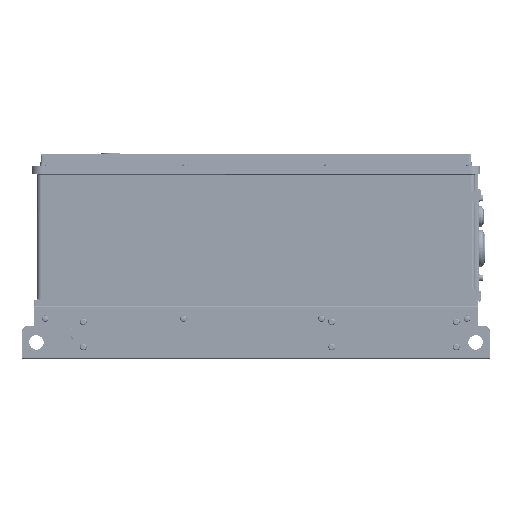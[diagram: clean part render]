
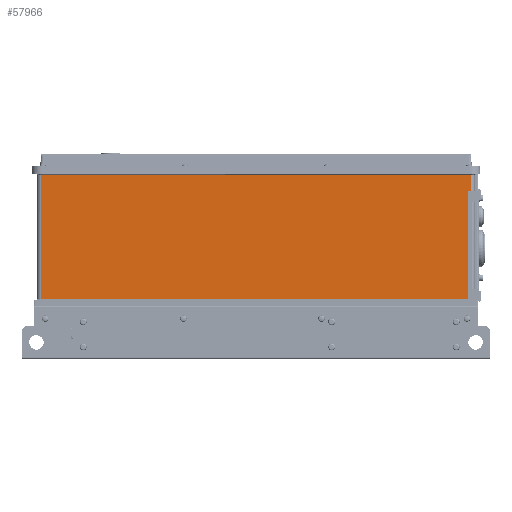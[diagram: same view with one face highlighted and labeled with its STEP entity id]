
A CAD part, left-side view. The second image highlights one B-rep face of the part: STEP entity #57966.
In plain terms, the highlighted planar face has unit normal (-1, 0, 0).
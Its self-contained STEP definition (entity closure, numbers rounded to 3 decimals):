
#4354=DIRECTION('',(0.,-1.,0.));
#4355=VECTOR('',#4354,596.008);
#4356=CARTESIAN_POINT('',(4.,606.004,255.456));
#4357=LINE('',#4356,#4355);
#4358=DIRECTION('',(0.,0.,1.));
#4359=VECTOR('',#4358,171.909);
#4360=CARTESIAN_POINT('',(4.,10.,83.544));
#4361=LINE('',#4360,#4359);
#4362=DIRECTION('',(0.,1.,0.));
#4363=VECTOR('',#4362,596.);
#4364=CARTESIAN_POINT('',(4.,10.,83.544));
#4365=LINE('',#4364,#4363);
#4366=DIRECTION('',(0.,0.,1.));
#4367=VECTOR('',#4366,171.909);
#4368=CARTESIAN_POINT('',(4.,606.,83.544));
#4369=LINE('',#4368,#4367);
#4370=CARTESIAN_POINT('',(4.,10.,255.454));
#4371=CARTESIAN_POINT('',(4.,9.999,255.454));
#4372=CARTESIAN_POINT('',(4.,9.998,255.455));
#4373=CARTESIAN_POINT('',(4.,9.996,255.455));
#4374=CARTESIAN_POINT('',(4.,9.996,255.456));
#18956=CARTESIAN_POINT('',(4.,606.004,255.456));
#18957=CARTESIAN_POINT('',(4.,606.004,255.455));
#18958=CARTESIAN_POINT('',(4.,606.002,255.455));
#18959=CARTESIAN_POINT('',(4.,606.001,255.454));
#18960=CARTESIAN_POINT('',(4.,606.,255.454));
#19033=CARTESIAN_POINT('',(4.,606.,255.454));
#19170=CARTESIAN_POINT('',(4.,10.,83.544));
#19172=CARTESIAN_POINT('',(4.,10.,255.454));
#42603=VERTEX_POINT('',#19170);
#42604=CARTESIAN_POINT('',(4.,606.,83.544));
#42605=VERTEX_POINT('',#42604);
#42608=VERTEX_POINT('',#19172);
#42621=VERTEX_POINT('',#19033);
#42646=CARTESIAN_POINT('',(4.,606.004,255.456));
#42647=CARTESIAN_POINT('',(4.,9.996,255.456));
#42648=VERTEX_POINT('',#42646);
#42649=VERTEX_POINT('',#42647);
#57948=CARTESIAN_POINT('',(4.,4.,257.));
#57949=DIRECTION('',(1.,0.,0.));
#57950=DIRECTION('',(0.,1.,0.));
#57951=AXIS2_PLACEMENT_3D('',#57948,#57949,#57950);
#57952=PLANE('',#57951);
#57953=ORIENTED_EDGE('',*,*,#57938,.T.);
#57955=ORIENTED_EDGE('',*,*,#57954,.F.);
#57957=ORIENTED_EDGE('',*,*,#57956,.F.);
#57959=ORIENTED_EDGE('',*,*,#57958,.T.);
#57961=ORIENTED_EDGE('',*,*,#57960,.T.);
#57963=ORIENTED_EDGE('',*,*,#57962,.F.);
#57964=EDGE_LOOP('',(#57953,#57955,#57957,#57959,#57961,#57963));
#57965=FACE_OUTER_BOUND('',#57964,.F.);
#57966=ADVANCED_FACE('',(#57965),#57952,.F.);
#4375=B_SPLINE_CURVE_WITH_KNOTS('',3,(#4370,#4371,#4372,#4373,#4374),
.UNSPECIFIED.,.F.,.F.,(4,1,4),(0.,0.5,1.),.UNSPECIFIED.);
#18961=B_SPLINE_CURVE_WITH_KNOTS('',3,(#18956,#18957,#18958,#18959,#18960),
.UNSPECIFIED.,.F.,.F.,(4,1,4),(0.,0.5,1.),.UNSPECIFIED.);
#57938=EDGE_CURVE('',#42648,#42649,#4357,.T.);
#57954=EDGE_CURVE('',#42608,#42649,#4375,.T.);
#57956=EDGE_CURVE('',#42603,#42608,#4361,.T.);
#57958=EDGE_CURVE('',#42603,#42605,#4365,.T.);
#57960=EDGE_CURVE('',#42605,#42621,#4369,.T.);
#57962=EDGE_CURVE('',#42648,#42621,#18961,.T.);
